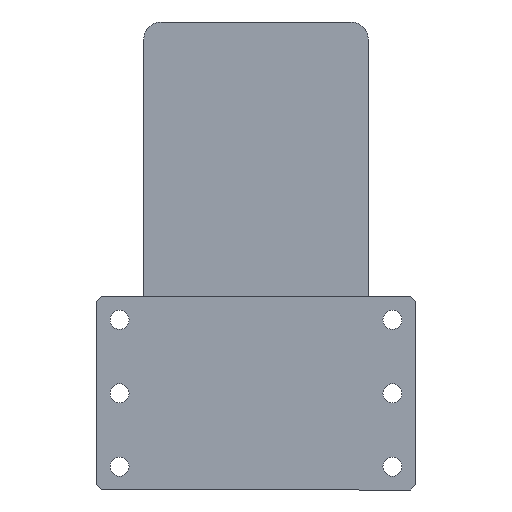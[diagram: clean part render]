
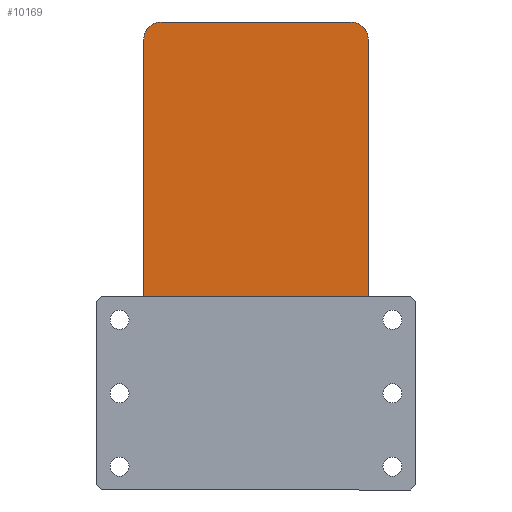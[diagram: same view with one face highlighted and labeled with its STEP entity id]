
A CAD part, left-side view. The second image highlights one B-rep face of the part: STEP entity #10169.
In plain terms, the highlighted planar face has unit normal (-1, 0, 0) as drawn and (0, 0, 1) by its records, which use the part's own axes.
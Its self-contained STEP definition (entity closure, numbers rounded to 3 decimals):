
#207 = VECTOR ( 'NONE', #6417, 1000. ) ;
#280 = LINE ( 'NONE', #6394, #207 ) ;
#579 = LINE ( 'NONE', #5702, #640 ) ;
#640 = VECTOR ( 'NONE', #5723, 1000. ) ;
#799 = CARTESIAN_POINT ( 'NONE',  ( -55., 135., 105. ) ) ;
#1089 = ORIENTED_EDGE ( 'NONE', *, *, #6007, .T. ) ;
#1102 = ORIENTED_EDGE ( 'NONE', *, *, #6028, .T. ) ;
#1136 = VECTOR ( 'NONE', #4837, 1000. ) ;
#1151 = LINE ( 'NONE', #4833, #1136 ) ;
#1287 = ORIENTED_EDGE ( 'NONE', *, *, #5699, .T. ) ;
#1313 = AXIS2_PLACEMENT_3D ( 'NONE', #1875, #1681, #1649 ) ;
#1358 = VECTOR ( 'NONE', #4557, 1000. ) ;
#1382 = LINE ( 'NONE', #4538, #1358 ) ;
#1476 = VERTEX_POINT ( 'NONE', #7803 ) ;
#1649 = DIRECTION ( 'NONE',  ( 1., 0., 0. ) ) ;
#1678 = DIRECTION ( 'NONE',  ( 0., 0., 1. ) ) ;
#1681 = DIRECTION ( 'NONE',  ( 0., 0., 1. ) ) ;
#1711 = DIRECTION ( 'NONE',  ( 1., 0., 0. ) ) ;
#1763 = PLANE ( 'NONE',  #1313 ) ;
#1875 = CARTESIAN_POINT ( 'NONE',  ( 0., 0., 105. ) ) ;
#2378 = CARTESIAN_POINT ( 'NONE',  ( -55., -135., 105. ) ) ;
#2964 = CARTESIAN_POINT ( 'NONE',  ( 55., 135., 105. ) ) ;
#3274 = VERTEX_POINT ( 'NONE', #799 ) ;
#3453 = ORIENTED_EDGE ( 'NONE', *, *, #5866, .T. ) ;
#3622 = ORIENTED_EDGE ( 'NONE', *, *, #6047, .T. ) ;
#3978 = CIRCLE ( 'NONE', #8882, 10. ) ;
#4538 = CARTESIAN_POINT ( 'NONE',  ( 65., 135., 105. ) ) ;
#4557 = DIRECTION ( 'NONE',  ( 0., 1., 0. ) ) ;
#4635 = VERTEX_POINT ( 'NONE', #11012 ) ;
#4790 = VERTEX_POINT ( 'NONE', #2378 ) ;
#4833 = CARTESIAN_POINT ( 'NONE',  ( -65., 135., 105. ) ) ;
#4837 = DIRECTION ( 'NONE',  ( -1., 0., 0. ) ) ;
#4853 = FACE_OUTER_BOUND ( 'NONE', #5211, .T. ) ;
#5133 = CARTESIAN_POINT ( 'NONE',  ( 65., -125., 105. ) ) ;
#5211 = EDGE_LOOP ( 'NONE', ( #10583, #8137, #8462, #1089, #1287, #1102, #3453, #3622 ) ) ;
#5414 = VERTEX_POINT ( 'NONE', #9062 ) ;
#5417 = VERTEX_POINT ( 'NONE', #2964 ) ;
#5516 = CARTESIAN_POINT ( 'NONE',  ( 65., 125., 105. ) ) ;
#5650 = EDGE_CURVE ( 'NONE', #5737, #9799, #1382, .T. ) ;
#5699 = EDGE_CURVE ( 'NONE', #5417, #3274, #1151, .T. ) ;
#5702 = CARTESIAN_POINT ( 'NONE',  ( -65., 135., 105. ) ) ;
#5723 = DIRECTION ( 'NONE',  ( 0., -1., 0. ) ) ;
#5737 = VERTEX_POINT ( 'NONE', #5133 ) ;
#5866 = EDGE_CURVE ( 'NONE', #5414, #4635, #579, .T. ) ;
#5961 = EDGE_CURVE ( 'NONE', #4790, #1476, #280, .T. ) ;
#6007 = EDGE_CURVE ( 'NONE', #9799, #5417, #11089, .T. ) ;
#6028 = EDGE_CURVE ( 'NONE', #3274, #5414, #10793, .T. ) ;
#6047 = EDGE_CURVE ( 'NONE', #4635, #4790, #10188, .T. ) ;
#6249 = EDGE_CURVE ( 'NONE', #1476, #5737, #3978, .T. ) ;
#6394 = CARTESIAN_POINT ( 'NONE',  ( -65., -135., 105. ) ) ;
#6417 = DIRECTION ( 'NONE',  ( 1., 0., 0. ) ) ;
#7115 = CARTESIAN_POINT ( 'NONE',  ( 55., 125., 105. ) ) ;
#7803 = CARTESIAN_POINT ( 'NONE',  ( 55., -135., 105. ) ) ;
#8137 = ORIENTED_EDGE ( 'NONE', *, *, #6249, .T. ) ;
#8337 = CARTESIAN_POINT ( 'NONE',  ( 55., -125., 105. ) ) ;
#8354 = DIRECTION ( 'NONE',  ( 0., 0., 1. ) ) ;
#8357 = DIRECTION ( 'NONE',  ( 1., 0., 0. ) ) ;
#8423 = AXIS2_PLACEMENT_3D ( 'NONE', #9665, #9657, #9609 ) ;
#8462 = ORIENTED_EDGE ( 'NONE', *, *, #5650, .T. ) ;
#8882 = AXIS2_PLACEMENT_3D ( 'NONE', #8337, #8354, #8357 ) ;
#9062 = CARTESIAN_POINT ( 'NONE',  ( -65., 125., 105. ) ) ;
#9109 = DIRECTION ( 'NONE',  ( 0., 0., 1. ) ) ;
#9140 = CARTESIAN_POINT ( 'NONE',  ( -55., 125., 105. ) ) ;
#9151 = DIRECTION ( 'NONE',  ( 1., 0., 0. ) ) ;
#9174 = AXIS2_PLACEMENT_3D ( 'NONE', #9140, #9109, #9151 ) ;
#9609 = DIRECTION ( 'NONE',  ( 1., 0., 0. ) ) ;
#9657 = DIRECTION ( 'NONE',  ( 0., 0., 1. ) ) ;
#9665 = CARTESIAN_POINT ( 'NONE',  ( -55., -125., 105. ) ) ;
#9799 = VERTEX_POINT ( 'NONE', #5516 ) ;
#10169 = ADVANCED_FACE ( 'NONE', ( #4853 ), #1763, .T. ) ;
#10188 = CIRCLE ( 'NONE', #8423, 10. ) ;
#10583 = ORIENTED_EDGE ( 'NONE', *, *, #5961, .T. ) ;
#10677 = AXIS2_PLACEMENT_3D ( 'NONE', #7115, #1678, #1711 ) ;
#10793 = CIRCLE ( 'NONE', #9174, 10. ) ;
#11012 = CARTESIAN_POINT ( 'NONE',  ( -65., -125., 105. ) ) ;
#11089 = CIRCLE ( 'NONE', #10677, 10. ) ;
